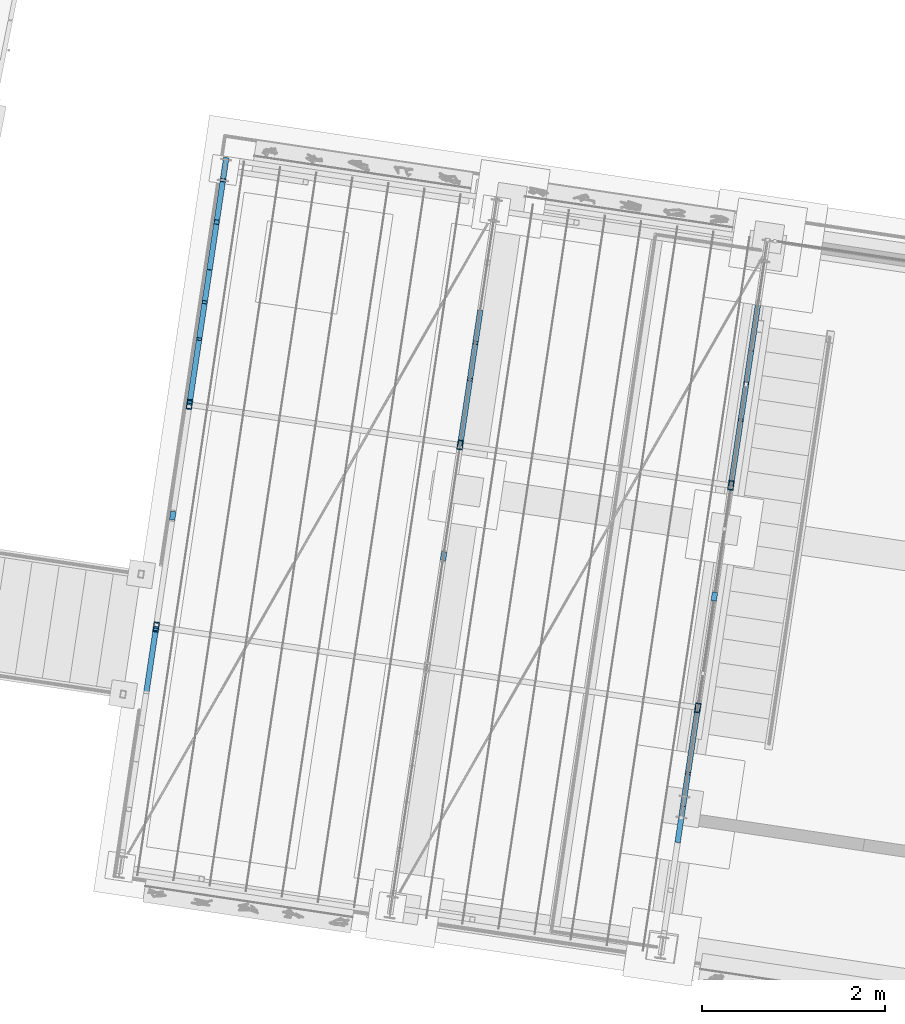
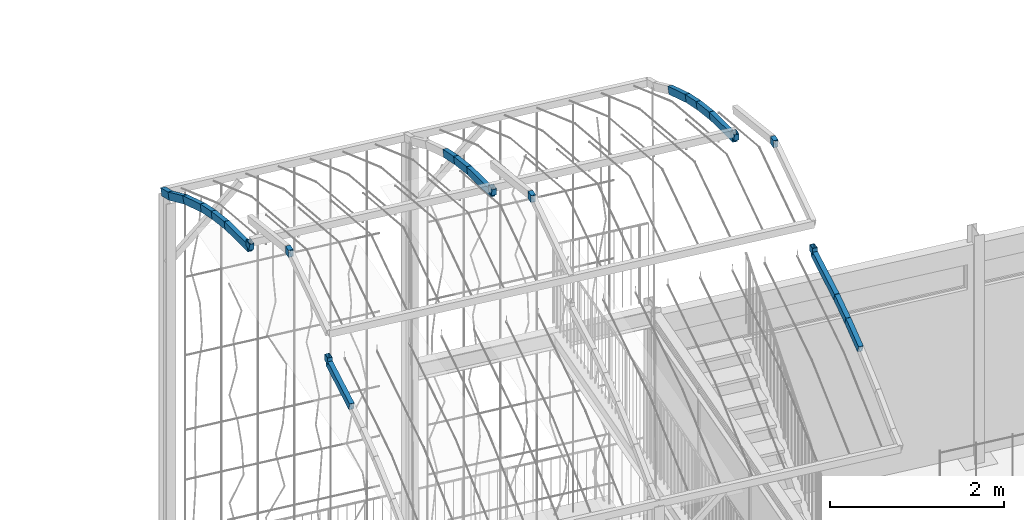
# One storey, part 113 of 143: 25 members, 1 element without a shape of its own.
"""IFC4 building model written with IfcOpenShell, lengths in metres."""

from ifc_helpers import new_model, si_unit, direction, frame, origin_with_axes, place, context, subcontext, project, spatial, hollow_rectangle, extrude, material, material_profile, profile_set, profile_usage, type_object, element, aggregate, save


model = new_model("IFC4")

# Units and contexts
model_context = context("Model", 3, precision=1e-05, world=origin_with_axes(), true_north=direction((0.0, 1.0)))
body_context = subcontext(model_context, "Body", "Model", "MODEL_VIEW")
ifc_project = project(units=[si_unit("VOLUMEUNIT", "CUBIC_METRE"), si_unit("LENGTHUNIT", "METRE"), si_unit("AREAUNIT", "SQUARE_METRE")], contexts=[model_context])

# Site, building, storey
site_placement = place(None, origin_with_axes())
site = spatial("IfcSite", under=ifc_project, at=site_placement, Name="Lares · Rua das Mercês · artigo 4771")
building_placement = place(site_placement, frame((15.0, 9.7, 15.8), z_axis=(0.0, 0.0, 1.0), x_axis=(0.989015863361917, -0.147809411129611, 0.0)))
building = spatial("IfcBuilding", under=site, at=building_placement, Name="Casa Sobreposta")
storey_placement = place(building_placement, origin_with_axes())
storey = spatial("IfcBuildingStorey", under=building, at=storey_placement, Name="00 · Habitação e estacionamento", Elevation=15.8)

# Assembly, members
assembly_placement = place(storey_placement, origin_with_axes())
assembly = element("IfcElementAssembly", 1, at=assembly_placement, inside=storey, Name="Pérgola · prolongamento da estufa 6 m", ObjectType="PERGOLA_GREENHOUSE_EXTENSION", PredefinedType="USERDEFINED")
ifc_material = material(Name="Aço pintado / Stahl lackiert", Category="steel")
ifc_material_profile = material_profile(ifc_material, hollow_rectangle(XDim=0.06, YDim=0.1, WallThickness=0.004))
ifc_profile_set = profile_set([ifc_material_profile], Name="RHS100x60x4")
ifc_profile_usage_1 = profile_usage(ifc_profile_set)
member_type = type_object("IfcMemberType", Name="RHS100x60x4 / steel", PredefinedType="NOTDEFINED", material=ifc_profile_set)
member_1_placement = place(assembly_placement, frame((-6.0, 0.493171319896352, 7.05943931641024), z_axis=(0.0, 0.977995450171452, 0.208626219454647), x_axis=(1.0, 0.0, 0.0)))
member_1 = element("IfcMember", 2, at=member_1_placement, type_object=member_type, material=ifc_profile_usage_1, Name="Pérgola · arco contínuo com a estufa", context=body_context, shape_type="SweptSolid", body=[
    extrude(hollow_rectangle(XDim=0.06, YDim=0.1, WallThickness=0.004), origin_with_axes(), (0.0, 0.0, 1.0), 0.737465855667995),
])
ifc_profile_usage_2 = profile_usage(ifc_profile_set)
member_2_placement = place(assembly_placement, frame((-6.0, 1.21440957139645, 7.21329402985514), z_axis=(0.0, 0.0686229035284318, 0.997642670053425), x_axis=(1.0, 0.0, 0.0)))
member_2 = element("IfcMember", 3, at=member_2_placement, type_object=member_type, material=ifc_profile_usage_2, Name="Pérgola · arco contínuo com a estufa", context=body_context, shape_type="SweptSolid", body=[
    extrude(hollow_rectangle(XDim=0.06, YDim=0.1, WallThickness=0.004), origin_with_axes(), (0.0, 0.0, 1.0), 0.0875893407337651),
])
ifc_profile_usage_3 = profile_usage(ifc_profile_set)
member_3_placement = place(assembly_placement, frame((-6.0, 2.40274082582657, 7.96518238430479), z_axis=(0.0, 1.0, 0.0), x_axis=(1.0, 0.0, 0.0)))
member_3 = element("IfcMember", 4, at=member_3_placement, type_object=member_type, material=ifc_profile_usage_3, Name="Pérgola · arco contínuo com a estufa", context=body_context, shape_type="SweptSolid", body=[
    extrude(hollow_rectangle(XDim=0.06, YDim=0.1, WallThickness=0.004), origin_with_axes(), (0.0, 0.0, 1.0), 0.0949594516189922),
])
ifc_profile_usage_4 = profile_usage(ifc_profile_set)
member_4_placement = place(assembly_placement, frame((-6.0, 3.68002089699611, 7.30067689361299), z_axis=(0.0, 0.0651953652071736, -0.997872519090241), x_axis=(1.0, 0.0, 0.0)))
member_4 = element("IfcMember", 5, at=member_4_placement, type_object=member_type, material=ifc_profile_usage_4, Name="Pérgola · arco contínuo com a estufa", context=body_context, shape_type="SweptSolid", body=[
    extrude(hollow_rectangle(XDim=0.06, YDim=0.1, WallThickness=0.004), origin_with_axes(), (0.0, 0.0, 1.0), 0.0875840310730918),
])
ifc_profile_usage_5 = profile_usage(ifc_profile_set)
member_5_placement = place(assembly_placement, frame((-6.0, 3.68573096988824, 7.21327919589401), z_axis=(0.0, 0.977996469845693, -0.208621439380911), x_axis=(1.0, 0.0, 0.0)))
member_5 = element("IfcMember", 6, at=member_5_placement, type_object=member_type, material=ifc_profile_usage_5, Name="Pérgola · arco contínuo com a estufa", context=body_context, shape_type="SweptSolid", body=[
    extrude(hollow_rectangle(XDim=0.06, YDim=0.1, WallThickness=0.004), origin_with_axes(), (0.0, 0.0, 1.0), 0.737400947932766),
])
ifc_profile_usage_6 = profile_usage(ifc_profile_set)
member_6_placement = place(assembly_placement, frame((-6.0, 4.40690649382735, 7.05944154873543), z_axis=(0.0, 0.958508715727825, -0.285063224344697), x_axis=(1.0, 0.0, 0.0)))
member_6 = element("IfcMember", 7, at=member_6_placement, type_object=member_type, material=ifc_profile_usage_6, Name="Pérgola · arco contínuo com a estufa", context=body_context, shape_type="SweptSolid", body=[
    extrude(hollow_rectangle(XDim=0.06, YDim=0.1, WallThickness=0.004), origin_with_axes(), (0.0, 0.0, 1.0), 0.426177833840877),
])
ifc_profile_usage_7 = profile_usage(ifc_profile_set)
member_7_placement = place(assembly_placement, frame((-6.0, 4.81540166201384, 6.93795392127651), z_axis=(0.0, 0.941396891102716, -0.337300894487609), x_axis=(1.0, 0.0, 0.0)))
member_7 = element("IfcMember", 8, at=member_7_placement, type_object=member_type, material=ifc_profile_usage_7, Name="Pérgola · arco contínuo com a estufa", context=body_context, shape_type="SweptSolid", body=[
    extrude(hollow_rectangle(XDim=0.06, YDim=0.1, WallThickness=0.004), origin_with_axes(), (0.0, 0.0, 1.0), 0.362337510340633),
])
ifc_profile_usage_8 = profile_usage(ifc_profile_set)
member_8_placement = place(assembly_placement, frame((-6.0, 5.15650506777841, 6.8157371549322), z_axis=(0.0, 0.915895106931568, -0.401417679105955), x_axis=(1.0, 0.0, 0.0)))
member_8 = element("IfcMember", 9, at=member_8_placement, type_object=member_type, material=ifc_profile_usage_8, Name="Pérgola · arco contínuo com a estufa", context=body_context, shape_type="SweptSolid", body=[
    extrude(hollow_rectangle(XDim=0.06, YDim=0.1, WallThickness=0.004), origin_with_axes(), (0.0, 0.0, 1.0), 0.596721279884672),
])
ifc_profile_usage_9 = profile_usage(ifc_profile_set)
member_9_placement = place(assembly_placement, frame((-6.0, 5.70303916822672, 6.57620268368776), z_axis=(0.0, 0.878867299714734, -0.477066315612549), x_axis=(1.0, 0.0, 0.0)))
member_9 = element("IfcMember", 10, at=member_9_placement, type_object=member_type, material=ifc_profile_usage_9, Name="Pérgola · arco contínuo com a estufa", context=body_context, shape_type="SweptSolid", body=[
    extrude(hollow_rectangle(XDim=0.06, YDim=0.1, WallThickness=0.004), origin_with_axes(), (0.0, 0.0, 1.0), 0.52859183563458),
])
ifc_profile_usage_10 = profile_usage(ifc_profile_set)
member_10_placement = place(assembly_placement, frame((-6.0, 6.16760124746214, 6.3240293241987), z_axis=(0.0, 0.932880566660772, -0.360185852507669), x_axis=(1.0, 0.0, 0.0)))
member_10 = element("IfcMember", 11, at=member_10_placement, type_object=member_type, material=ifc_profile_usage_10, Name="Pérgola · arco contínuo com a estufa", context=body_context, shape_type="SweptSolid", body=[
    extrude(hollow_rectangle(XDim=0.06, YDim=0.1, WallThickness=0.004), origin_with_axes(), (0.0, 0.0, 1.0), 0.249119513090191),
])
ifc_profile_usage_11 = profile_usage(ifc_profile_set)
member_11_placement = place(assembly_placement, frame((-3.0, 2.40274082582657, 7.96518238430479), z_axis=(0.0, 1.0, 0.0), x_axis=(1.0, 0.0, 0.0)))
member_11 = element("IfcMember", 12, at=member_11_placement, type_object=member_type, material=ifc_profile_usage_11, Name="Pérgola · arco contínuo com a estufa", context=body_context, shape_type="SweptSolid", body=[
    extrude(hollow_rectangle(XDim=0.06, YDim=0.1, WallThickness=0.004), origin_with_axes(), (0.0, 0.0, 1.0), 0.0949594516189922),
])
ifc_profile_usage_12 = profile_usage(ifc_profile_set)
member_12_placement = place(assembly_placement, frame((-3.0, 3.68002089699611, 7.30067689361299), z_axis=(0.0, 0.0651953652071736, -0.997872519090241), x_axis=(1.0, 0.0, 0.0)))
member_12 = element("IfcMember", 13, at=member_12_placement, type_object=member_type, material=ifc_profile_usage_12, Name="Pérgola · arco contínuo com a estufa", context=body_context, shape_type="SweptSolid", body=[
    extrude(hollow_rectangle(XDim=0.06, YDim=0.1, WallThickness=0.004), origin_with_axes(), (0.0, 0.0, 1.0), 0.0875840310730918),
])
ifc_profile_usage_13 = profile_usage(ifc_profile_set)
member_13_placement = place(assembly_placement, frame((-3.0, 3.68573096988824, 7.21327919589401), z_axis=(0.0, 0.977996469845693, -0.208621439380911), x_axis=(1.0, 0.0, 0.0)))
member_13 = element("IfcMember", 14, at=member_13_placement, type_object=member_type, material=ifc_profile_usage_13, Name="Pérgola · arco contínuo com a estufa", context=body_context, shape_type="SweptSolid", body=[
    extrude(hollow_rectangle(XDim=0.06, YDim=0.1, WallThickness=0.004), origin_with_axes(), (0.0, 0.0, 1.0), 0.737400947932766),
])
ifc_profile_usage_14 = profile_usage(ifc_profile_set)
member_14_placement = place(assembly_placement, frame((-3.0, 4.40690649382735, 7.05944154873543), z_axis=(0.0, 0.958508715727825, -0.285063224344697), x_axis=(1.0, 0.0, 0.0)))
member_14 = element("IfcMember", 15, at=member_14_placement, type_object=member_type, material=ifc_profile_usage_14, Name="Pérgola · arco contínuo com a estufa", context=body_context, shape_type="SweptSolid", body=[
    extrude(hollow_rectangle(XDim=0.06, YDim=0.1, WallThickness=0.004), origin_with_axes(), (0.0, 0.0, 1.0), 0.426177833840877),
])
ifc_profile_usage_15 = profile_usage(ifc_profile_set)
member_15_placement = place(assembly_placement, frame((-3.0, 4.81540166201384, 6.93795392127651), z_axis=(0.0, 0.941396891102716, -0.337300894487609), x_axis=(1.0, 0.0, 0.0)))
member_15 = element("IfcMember", 16, at=member_15_placement, type_object=member_type, material=ifc_profile_usage_15, Name="Pérgola · arco contínuo com a estufa", context=body_context, shape_type="SweptSolid", body=[
    extrude(hollow_rectangle(XDim=0.06, YDim=0.1, WallThickness=0.004), origin_with_axes(), (0.0, 0.0, 1.0), 0.362337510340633),
])
ifc_profile_usage_16 = profile_usage(ifc_profile_set)
member_16_placement = place(assembly_placement, frame((0.0, -0.256488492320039, 6.81570306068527), z_axis=(0.0, 0.942820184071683, 0.333301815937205), x_axis=(1.0, 0.0, 0.0)))
member_16 = element("IfcMember", 17, at=member_16_placement, type_object=member_type, material=ifc_profile_usage_16, Name="Pérgola · arco contínuo com a estufa", context=body_context, shape_type="SweptSolid", body=[
    extrude(hollow_rectangle(XDim=0.06, YDim=0.1, WallThickness=0.004), origin_with_axes(), (0.0, 0.0, 1.0), 0.423025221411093),
])
ifc_profile_usage_17 = profile_usage(ifc_profile_set)
member_17_placement = place(assembly_placement, frame((0.0, 0.142348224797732, 6.95669813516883), z_axis=(0.0, 0.959692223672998, 0.281053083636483), x_axis=(1.0, 0.0, 0.0)))
member_17 = element("IfcMember", 18, at=member_17_placement, type_object=member_type, material=ifc_profile_usage_17, Name="Pérgola · arco contínuo com a estufa", context=body_context, shape_type="SweptSolid", body=[
    extrude(hollow_rectangle(XDim=0.06, YDim=0.1, WallThickness=0.004), origin_with_axes(), (0.0, 0.0, 1.0), 0.365557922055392),
])
ifc_profile_usage_18 = profile_usage(ifc_profile_set)
member_18_placement = place(assembly_placement, frame((0.0, 0.493171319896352, 7.05943931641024), z_axis=(0.0, 0.977995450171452, 0.208626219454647), x_axis=(1.0, 0.0, 0.0)))
member_18 = element("IfcMember", 19, at=member_18_placement, type_object=member_type, material=ifc_profile_usage_18, Name="Pérgola · arco contínuo com a estufa", context=body_context, shape_type="SweptSolid", body=[
    extrude(hollow_rectangle(XDim=0.06, YDim=0.1, WallThickness=0.004), origin_with_axes(), (0.0, 0.0, 1.0), 0.737465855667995),
])
ifc_profile_usage_19 = profile_usage(ifc_profile_set)
member_19_placement = place(assembly_placement, frame((0.0, 1.21440957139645, 7.21329402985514), z_axis=(0.0, 0.0686229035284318, 0.997642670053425), x_axis=(1.0, 0.0, 0.0)))
member_19 = element("IfcMember", 20, at=member_19_placement, type_object=member_type, material=ifc_profile_usage_19, Name="Pérgola · arco contínuo com a estufa", context=body_context, shape_type="SweptSolid", body=[
    extrude(hollow_rectangle(XDim=0.06, YDim=0.1, WallThickness=0.004), origin_with_axes(), (0.0, 0.0, 1.0), 0.0875893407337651),
])
ifc_profile_usage_20 = profile_usage(ifc_profile_set)
member_20_placement = place(assembly_placement, frame((0.0, 2.40274082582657, 7.96518238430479), z_axis=(0.0, 1.0, 0.0), x_axis=(1.0, 0.0, 0.0)))
member_20 = element("IfcMember", 21, at=member_20_placement, type_object=member_type, material=ifc_profile_usage_20, Name="Pérgola · arco contínuo com a estufa", context=body_context, shape_type="SweptSolid", body=[
    extrude(hollow_rectangle(XDim=0.06, YDim=0.1, WallThickness=0.004), origin_with_axes(), (0.0, 0.0, 1.0), 0.0949594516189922),
])
ifc_profile_usage_21 = profile_usage(ifc_profile_set)
member_21_placement = place(assembly_placement, frame((0.0, 3.68002089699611, 7.30067689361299), z_axis=(0.0, 0.0651953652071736, -0.997872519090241), x_axis=(1.0, 0.0, 0.0)))
member_21 = element("IfcMember", 22, at=member_21_placement, type_object=member_type, material=ifc_profile_usage_21, Name="Pérgola · arco contínuo com a estufa", context=body_context, shape_type="SweptSolid", body=[
    extrude(hollow_rectangle(XDim=0.06, YDim=0.1, WallThickness=0.004), origin_with_axes(), (0.0, 0.0, 1.0), 0.0875840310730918),
])
ifc_profile_usage_22 = profile_usage(ifc_profile_set)
member_22_placement = place(assembly_placement, frame((0.0, 3.68573096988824, 7.21327919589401), z_axis=(0.0, 0.977996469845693, -0.208621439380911), x_axis=(1.0, 0.0, 0.0)))
member_22 = element("IfcMember", 23, at=member_22_placement, type_object=member_type, material=ifc_profile_usage_22, Name="Pérgola · arco contínuo com a estufa", context=body_context, shape_type="SweptSolid", body=[
    extrude(hollow_rectangle(XDim=0.06, YDim=0.1, WallThickness=0.004), origin_with_axes(), (0.0, 0.0, 1.0), 0.737400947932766),
])
ifc_profile_usage_23 = profile_usage(ifc_profile_set)
member_23_placement = place(assembly_placement, frame((0.0, 4.40690649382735, 7.05944154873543), z_axis=(0.0, 0.958508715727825, -0.285063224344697), x_axis=(1.0, 0.0, 0.0)))
member_23 = element("IfcMember", 24, at=member_23_placement, type_object=member_type, material=ifc_profile_usage_23, Name="Pérgola · arco contínuo com a estufa", context=body_context, shape_type="SweptSolid", body=[
    extrude(hollow_rectangle(XDim=0.06, YDim=0.1, WallThickness=0.004), origin_with_axes(), (0.0, 0.0, 1.0), 0.426177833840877),
])
ifc_profile_usage_24 = profile_usage(ifc_profile_set)
member_24_placement = place(assembly_placement, frame((0.0, 4.81540166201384, 6.93795392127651), z_axis=(0.0, 0.941396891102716, -0.337300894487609), x_axis=(1.0, 0.0, 0.0)))
member_24 = element("IfcMember", 25, at=member_24_placement, type_object=member_type, material=ifc_profile_usage_24, Name="Pérgola · arco contínuo com a estufa", context=body_context, shape_type="SweptSolid", body=[
    extrude(hollow_rectangle(XDim=0.06, YDim=0.1, WallThickness=0.004), origin_with_axes(), (0.0, 0.0, 1.0), 0.362337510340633),
])
ifc_profile_usage_25 = profile_usage(ifc_profile_set)
member_25_placement = place(assembly_placement, frame((0.0, 5.15650506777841, 6.8157371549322), z_axis=(0.0, 0.915895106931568, -0.401417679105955), x_axis=(1.0, 0.0, 0.0)))
member_25 = element("IfcMember", 26, at=member_25_placement, type_object=member_type, material=ifc_profile_usage_25, Name="Pérgola · arco contínuo com a estufa", context=body_context, shape_type="SweptSolid", body=[
    extrude(hollow_rectangle(XDim=0.06, YDim=0.1, WallThickness=0.004), origin_with_axes(), (0.0, 0.0, 1.0), 0.596721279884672),
])
aggregate(assembly, [member_1, member_2, member_3, member_4, member_5, member_6, member_7, member_8, member_9, member_10, member_11, member_12, member_13, member_14, member_15, member_16, member_17, member_18, member_19, member_20, member_21, member_22, member_23, member_24, member_25])

save(model, "model.ifc")
